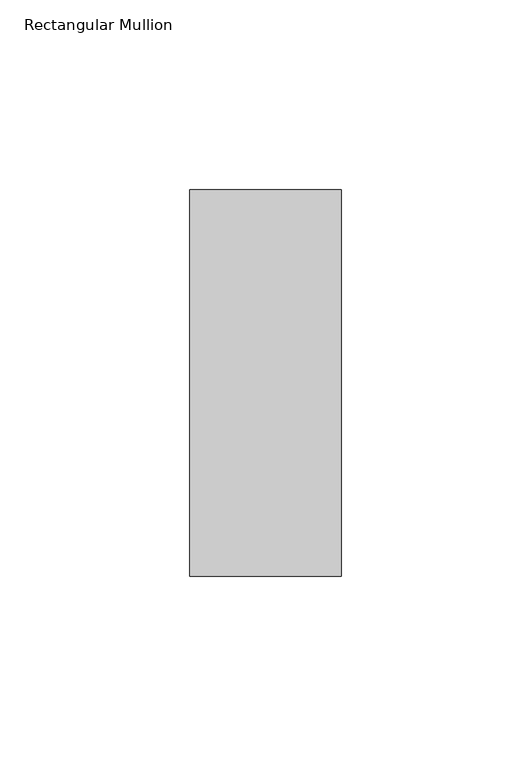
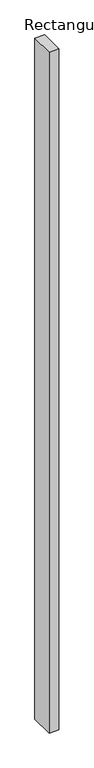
"""IFC4 building model written with IfcOpenShell, lengths in millimetres: member geometry, Rectangular Mullion : RSen_21_CWM_support profile - 40x102 - right_gen_duco projects."""

from ifc_helpers import new_model, si_unit, frame, origin, place, context, project, spatial, polyline, outline, extrude, source, transform, mapped, element, save


def rectangular_mullion_925e09c1(model_context):
    return source(origin(), model_context, "Body", "SweptSolid", [
        extrude(outline(polyline([(-90.0, 1.0), (-50.0, 1.0), (-50.0, -101.0), (-90.0, -101.0), (-90.0, 1.0)])), frame((0.0, 0.0, -3000.0), z_axis=(0.0, 0.0, 1.0), x_axis=(1.0, 0.0, 0.0)), (0.0, 0.0, 1.0), 3000.0),
    ])


if __name__ == "__main__":
    model = new_model("IFC4")
    model_context = context("Model", 3, world=origin())
    ifc_project = project(units=[si_unit("LENGTHUNIT", "METRE", prefix="MILLI")], contexts=[model_context])
    site = spatial("IfcSite", under=ifc_project)
    building = spatial("IfcBuilding", under=site)
    placement = place(None, origin())
    rectangular_mullion_shape = rectangular_mullion_925e09c1(model_context)
    element("IfcMember", 1, ObjectType="Rectangular Mullion : RSen_21_CWM_support profile - 40x102 - right_gen_duco projects", at=placement, inside=building, context=model_context, shape_type="MappedRepresentation", body=[
        mapped(rectangular_mullion_shape, transform((0.0, 0.0, 0.0), x_axis=(1.0, 0.0, 0.0), y_axis=(0.0, 1.0, 0.0), z_axis=(0.0, 0.0, 1.0))),
    ])
    save(model, "model.ifc")
